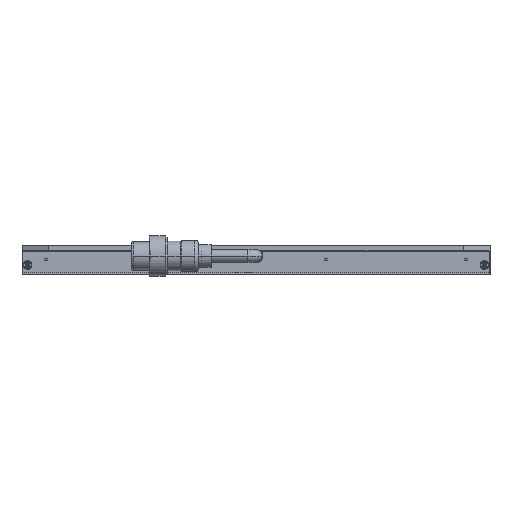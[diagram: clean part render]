
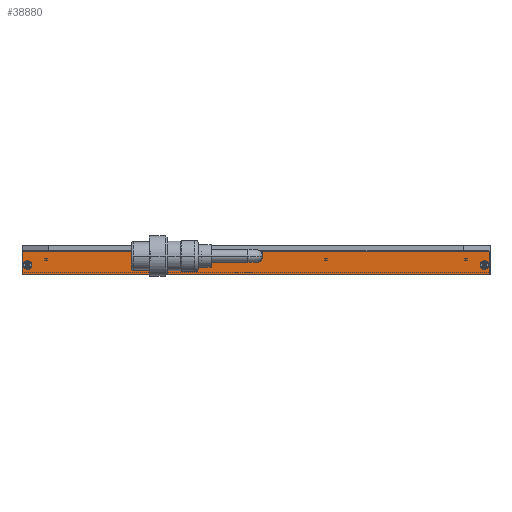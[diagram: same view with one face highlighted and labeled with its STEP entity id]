
A CAD part, front view. The second image highlights one B-rep face of the part: STEP entity #38880.
In plain terms, the highlighted planar face has unit normal (0, -1, 0).
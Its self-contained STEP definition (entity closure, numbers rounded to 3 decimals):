
#9341=DIRECTION('',(-1.,0.,0.));
#9342=VECTOR('',#9341,162.5);
#9343=CARTESIAN_POINT('',(-4.8,-232.5,0.));
#9344=LINE('',#9343,#9342);
#9373=DIRECTION('',(-1.,0.,0.));
#9374=VECTOR('',#9373,162.5);
#9375=CARTESIAN_POINT('',(167.3,-232.5,0.));
#9376=LINE('',#9375,#9374);
#11464=DIRECTION('',(0.,0.,1.));
#11465=VECTOR('',#11464,16.8);
#11466=CARTESIAN_POINT('',(-167.3,-232.5,-16.8));
#11467=LINE('',#11466,#11465);
#11472=CARTESIAN_POINT('',(-163.5,-232.5,-10.));
#11473=DIRECTION('',(0.,1.,0.));
#11474=DIRECTION('',(0.,0.,1.));
#11475=AXIS2_PLACEMENT_3D('',#11472,#11473,#11474);
#11477=CARTESIAN_POINT('',(-163.5,-232.5,-10.));
#11478=DIRECTION('',(0.,1.,0.));
#11479=DIRECTION('',(0.,0.,-1.));
#11480=AXIS2_PLACEMENT_3D('',#11477,#11478,#11479);
#11482=CARTESIAN_POINT('',(163.5,-232.5,-10.));
#11483=DIRECTION('',(0.,1.,0.));
#11484=DIRECTION('',(0.,0.,-1.));
#11485=AXIS2_PLACEMENT_3D('',#11482,#11483,#11484);
#11487=CARTESIAN_POINT('',(163.5,-232.5,-10.));
#11488=DIRECTION('',(0.,1.,0.));
#11489=DIRECTION('',(0.,0.,1.));
#11490=AXIS2_PLACEMENT_3D('',#11487,#11488,#11489);
#11492=CARTESIAN_POINT('',(0.,-232.5,-3.5));
#11493=DIRECTION('',(0.,1.,0.));
#11494=DIRECTION('',(1.,0.,0.));
#11495=AXIS2_PLACEMENT_3D('',#11492,#11493,#11494);
#12185=DIRECTION('',(0.,0.,-1.));
#12186=VECTOR('',#12185,16.8);
#12187=CARTESIAN_POINT('',(167.3,-232.5,0.));
#12188=LINE('',#12187,#12186);
#12241=DIRECTION('',(-1.,0.,0.));
#12242=VECTOR('',#12241,334.6);
#12243=CARTESIAN_POINT('',(167.3,-232.5,-16.8));
#12244=LINE('',#12243,#12242);
#12245=DIRECTION('',(0.,0.,-1.));
#12246=VECTOR('',#12245,3.5);
#12247=CARTESIAN_POINT('',(-4.8,-232.5,0.));
#12248=LINE('',#12247,#12246);
#12277=DIRECTION('',(0.,0.,1.));
#12278=VECTOR('',#12277,3.5);
#12279=CARTESIAN_POINT('',(4.8,-232.5,-3.5));
#12280=LINE('',#12279,#12278);
#17574=CARTESIAN_POINT('',(4.8,-232.5,-3.5));
#17575=CARTESIAN_POINT('',(-4.8,-232.5,-3.5));
#17576=VERTEX_POINT('',#17574);
#17577=VERTEX_POINT('',#17575);
#17578=CARTESIAN_POINT('',(167.3,-232.5,-16.8));
#17579=CARTESIAN_POINT('',(-167.3,-232.5,-16.8));
#17580=VERTEX_POINT('',#17578);
#17581=VERTEX_POINT('',#17579);
#17582=CARTESIAN_POINT('',(163.5,-232.5,-7.));
#17583=CARTESIAN_POINT('',(163.5,-232.5,-13.));
#17584=VERTEX_POINT('',#17582);
#17585=VERTEX_POINT('',#17583);
#17586=CARTESIAN_POINT('',(-163.5,-232.5,-13.));
#17587=CARTESIAN_POINT('',(-163.5,-232.5,-7.));
#17588=VERTEX_POINT('',#17586);
#17589=VERTEX_POINT('',#17587);
#21024=CARTESIAN_POINT('',(167.3,-232.5,0.));
#21025=CARTESIAN_POINT('',(4.8,-232.5,0.));
#21026=VERTEX_POINT('',#21024);
#21027=VERTEX_POINT('',#21025);
#21028=CARTESIAN_POINT('',(-4.8,-232.5,0.));
#21029=CARTESIAN_POINT('',(-167.3,-232.5,0.));
#21030=VERTEX_POINT('',#21028);
#21031=VERTEX_POINT('',#21029);
#38848=CARTESIAN_POINT('',(-167.5,-232.5,-17.));
#38849=DIRECTION('',(0.,-1.,0.));
#38850=DIRECTION('',(0.,0.,1.));
#38851=AXIS2_PLACEMENT_3D('',#38848,#38849,#38850);
#38852=PLANE('',#38851);
#38854=ORIENTED_EDGE('',*,*,#38853,.T.);
#38856=ORIENTED_EDGE('',*,*,#38855,.T.);
#38857=ORIENTED_EDGE('',*,*,#38831,.T.);
#38858=ORIENTED_EDGE('',*,*,#35473,.F.);
#38860=ORIENTED_EDGE('',*,*,#38859,.T.);
#38862=ORIENTED_EDGE('',*,*,#38861,.F.);
#38864=ORIENTED_EDGE('',*,*,#38863,.T.);
#38865=ORIENTED_EDGE('',*,*,#35497,.F.);
#38866=EDGE_LOOP('',(#38854,#38856,#38857,#38858,#38860,#38862,#38864,#38865));
#38867=FACE_OUTER_BOUND('',#38866,.F.);
#38869=ORIENTED_EDGE('',*,*,#38868,.F.);
#38871=ORIENTED_EDGE('',*,*,#38870,.F.);
#38872=EDGE_LOOP('',(#38869,#38871));
#38873=FACE_BOUND('',#38872,.F.);
#38875=ORIENTED_EDGE('',*,*,#38874,.F.);
#38877=ORIENTED_EDGE('',*,*,#38876,.F.);
#38878=EDGE_LOOP('',(#38875,#38877));
#38879=FACE_BOUND('',#38878,.F.);
#11476=CIRCLE('',#11475,3.);
#11481=CIRCLE('',#11480,3.);
#11486=CIRCLE('',#11485,3.);
#11491=CIRCLE('',#11490,3.);
#11496=CIRCLE('',#11495,4.8);
#35473=EDGE_CURVE('',#21030,#21031,#9344,.T.);
#35497=EDGE_CURVE('',#21026,#21027,#9376,.T.);
#38831=EDGE_CURVE('',#17581,#21031,#11467,.T.);
#38853=EDGE_CURVE('',#21026,#17580,#12188,.T.);
#38855=EDGE_CURVE('',#17580,#17581,#12244,.T.);
#38859=EDGE_CURVE('',#21030,#17577,#12248,.T.);
#38861=EDGE_CURVE('',#17576,#17577,#11496,.T.);
#38863=EDGE_CURVE('',#17576,#21027,#12280,.T.);
#38868=EDGE_CURVE('',#17585,#17584,#11486,.T.);
#38870=EDGE_CURVE('',#17584,#17585,#11491,.T.);
#38874=EDGE_CURVE('',#17589,#17588,#11476,.T.);
#38876=EDGE_CURVE('',#17588,#17589,#11481,.T.);
#38880=ADVANCED_FACE('',(#38867,#38873,#38879),#38852,.T.);
